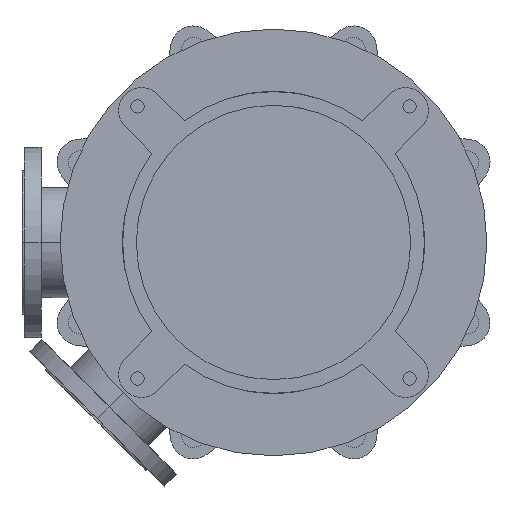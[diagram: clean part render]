
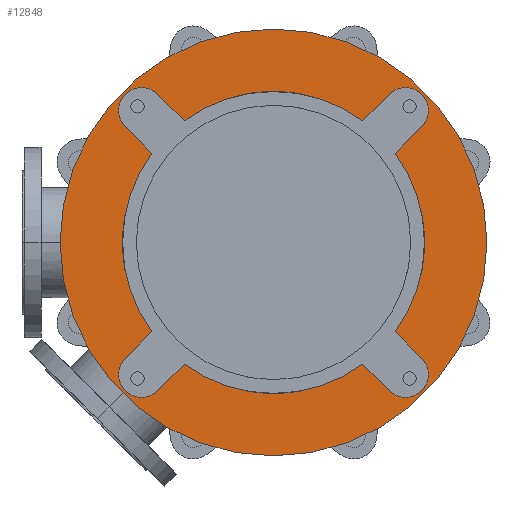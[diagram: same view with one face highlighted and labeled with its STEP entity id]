
A CAD part, front view. The second image highlights one B-rep face of the part: STEP entity #12848.
In plain terms, the highlighted planar face has unit normal (0, -1, 0).
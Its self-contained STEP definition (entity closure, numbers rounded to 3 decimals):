
#2487=CARTESIAN_POINT('',(0.,-25.,0.));
#2488=DIRECTION('',(0.,1.,0.));
#2489=DIRECTION('',(0.592,0.,-0.806));
#2490=AXIS2_PLACEMENT_3D('',#2487,#2488,#2489);
#2505=CARTESIAN_POINT('',(0.,-25.,0.));
#2506=DIRECTION('',(0.,1.,0.));
#2507=DIRECTION('',(0.806,0.,0.592));
#2508=AXIS2_PLACEMENT_3D('',#2505,#2506,#2507);
#2532=CARTESIAN_POINT('',(0.,-25.,0.));
#2533=DIRECTION('',(0.,1.,0.));
#2534=DIRECTION('',(-0.806,0.,-0.592));
#2535=AXIS2_PLACEMENT_3D('',#2532,#2533,#2534);
#2541=CARTESIAN_POINT('',(0.,-25.,0.));
#2542=DIRECTION('',(0.,1.,0.));
#2543=DIRECTION('',(-0.592,0.,0.806));
#2544=AXIS2_PLACEMENT_3D('',#2541,#2542,#2543);
#2719=CARTESIAN_POINT('',(0.,-25.,0.));
#2720=DIRECTION('',(0.,-1.,0.));
#2721=DIRECTION('',(-1.,0.,0.));
#2722=AXIS2_PLACEMENT_3D('',#2719,#2720,#2721);
#2724=CARTESIAN_POINT('',(0.,-25.,0.));
#2725=DIRECTION('',(0.,1.,0.));
#2726=DIRECTION('',(-1.,0.,0.));
#2727=AXIS2_PLACEMENT_3D('',#2724,#2725,#2726);
#2729=CARTESIAN_POINT('',(-173.241,-25.,173.241));
#2730=DIRECTION('',(0.,-1.,0.));
#2731=DIRECTION('',(0.707,0.,0.707));
#2732=AXIS2_PLACEMENT_3D('',#2729,#2730,#2731);
#2734=DIRECTION('',(0.707,0.,-0.707));
#2735=VECTOR('',#2734,49.286);
#2736=CARTESIAN_POINT('',(-194.454,-25.,152.028));
#2737=LINE('',#2736,#2735);
#2738=DIRECTION('',(-0.707,0.,-0.707));
#2739=VECTOR('',#2738,49.286);
#2740=CARTESIAN_POINT('',(-159.604,-25.,-117.178));
#2741=LINE('',#2740,#2739);
#2742=CARTESIAN_POINT('',(-173.241,-25.,-173.241));
#2743=DIRECTION('',(0.,-1.,0.));
#2744=DIRECTION('',(-0.707,0.,0.707));
#2745=AXIS2_PLACEMENT_3D('',#2742,#2743,#2744);
#2747=DIRECTION('',(0.707,0.,0.707));
#2748=VECTOR('',#2747,49.286);
#2749=CARTESIAN_POINT('',(-152.028,-25.,-194.454));
#2750=LINE('',#2749,#2748);
#2751=DIRECTION('',(0.707,0.,-0.707));
#2752=VECTOR('',#2751,49.286);
#2753=CARTESIAN_POINT('',(117.178,-25.,-159.604));
#2754=LINE('',#2753,#2752);
#2755=CARTESIAN_POINT('',(173.241,-25.,-173.241));
#2756=DIRECTION('',(0.,-1.,0.));
#2757=DIRECTION('',(-0.707,0.,-0.707));
#2758=AXIS2_PLACEMENT_3D('',#2755,#2756,#2757);
#2760=DIRECTION('',(-0.707,0.,0.707));
#2761=VECTOR('',#2760,49.286);
#2762=CARTESIAN_POINT('',(194.454,-25.,-152.028));
#2763=LINE('',#2762,#2761);
#2764=DIRECTION('',(0.707,0.,0.707));
#2765=VECTOR('',#2764,49.286);
#2766=CARTESIAN_POINT('',(159.604,-25.,117.178));
#2767=LINE('',#2766,#2765);
#2768=CARTESIAN_POINT('',(173.241,-25.,173.241));
#2769=DIRECTION('',(0.,-1.,0.));
#2770=DIRECTION('',(0.707,0.,-0.707));
#2771=AXIS2_PLACEMENT_3D('',#2768,#2769,#2770);
#2773=DIRECTION('',(-0.707,0.,-0.707));
#2774=VECTOR('',#2773,49.286);
#2775=CARTESIAN_POINT('',(152.028,-25.,194.454));
#2776=LINE('',#2775,#2774);
#2777=DIRECTION('',(-0.707,0.,0.707));
#2778=VECTOR('',#2777,49.286);
#2779=CARTESIAN_POINT('',(-117.178,-25.,159.604));
#2780=LINE('',#2779,#2778);
#8375=CARTESIAN_POINT('',(-280.,-25.,0.));
#8376=CARTESIAN_POINT('',(280.,-25.,0.));
#8377=VERTEX_POINT('',#8375);
#8378=VERTEX_POINT('',#8376);
#8399=CARTESIAN_POINT('',(-194.454,-25.,-152.028));
#8400=CARTESIAN_POINT('',(-152.028,-25.,-194.454));
#8401=VERTEX_POINT('',#8399);
#8402=VERTEX_POINT('',#8400);
#8403=CARTESIAN_POINT('',(-117.178,-25.,-159.604));
#8404=VERTEX_POINT('',#8403);
#8405=CARTESIAN_POINT('',(-159.604,-25.,-117.178));
#8406=VERTEX_POINT('',#8405);
#8415=CARTESIAN_POINT('',(152.028,-25.,-194.454));
#8416=CARTESIAN_POINT('',(194.454,-25.,-152.028));
#8417=VERTEX_POINT('',#8415);
#8418=VERTEX_POINT('',#8416);
#8419=CARTESIAN_POINT('',(159.604,-25.,-117.178));
#8420=VERTEX_POINT('',#8419);
#8421=CARTESIAN_POINT('',(117.178,-25.,-159.604));
#8422=VERTEX_POINT('',#8421);
#8431=CARTESIAN_POINT('',(194.454,-25.,152.028));
#8432=CARTESIAN_POINT('',(152.028,-25.,194.454));
#8433=VERTEX_POINT('',#8431);
#8434=VERTEX_POINT('',#8432);
#8435=CARTESIAN_POINT('',(117.178,-25.,159.604));
#8436=VERTEX_POINT('',#8435);
#8437=CARTESIAN_POINT('',(159.604,-25.,117.178));
#8438=VERTEX_POINT('',#8437);
#8447=CARTESIAN_POINT('',(-152.028,-25.,194.454));
#8448=CARTESIAN_POINT('',(-194.454,-25.,152.028));
#8449=VERTEX_POINT('',#8447);
#8450=VERTEX_POINT('',#8448);
#8451=CARTESIAN_POINT('',(-159.604,-25.,117.178));
#8452=VERTEX_POINT('',#8451);
#8453=CARTESIAN_POINT('',(-117.178,-25.,159.604));
#8454=VERTEX_POINT('',#8453);
#12808=CARTESIAN_POINT('',(0.,-25.,0.));
#12809=DIRECTION('',(0.,-1.,0.));
#12810=DIRECTION('',(-1.,0.,0.));
#12811=AXIS2_PLACEMENT_3D('',#12808,#12809,#12810);
#12812=PLANE('',#12811);
#12814=ORIENTED_EDGE('',*,*,#12813,.F.);
#12816=ORIENTED_EDGE('',*,*,#12815,.T.);
#12817=EDGE_LOOP('',(#12814,#12816));
#12818=FACE_OUTER_BOUND('',#12817,.F.);
#12820=ORIENTED_EDGE('',*,*,#12819,.T.);
#12822=ORIENTED_EDGE('',*,*,#12821,.T.);
#12823=ORIENTED_EDGE('',*,*,#12761,.F.);
#12825=ORIENTED_EDGE('',*,*,#12824,.T.);
#12827=ORIENTED_EDGE('',*,*,#12826,.T.);
#12829=ORIENTED_EDGE('',*,*,#12828,.T.);
#12830=ORIENTED_EDGE('',*,*,#12714,.F.);
#12831=ORIENTED_EDGE('',*,*,#12798,.T.);
#12833=ORIENTED_EDGE('',*,*,#12832,.T.);
#12835=ORIENTED_EDGE('',*,*,#12834,.T.);
#12836=ORIENTED_EDGE('',*,*,#12735,.F.);
#12838=ORIENTED_EDGE('',*,*,#12837,.T.);
#12840=ORIENTED_EDGE('',*,*,#12839,.T.);
#12842=ORIENTED_EDGE('',*,*,#12841,.T.);
#12843=ORIENTED_EDGE('',*,*,#12779,.F.);
#12845=ORIENTED_EDGE('',*,*,#12844,.T.);
#12846=EDGE_LOOP('',(#12820,#12822,#12823,#12825,#12827,#12829,#12830,#12831,
#12833,#12835,#12836,#12838,#12840,#12842,#12843,#12845));
#12847=FACE_BOUND('',#12846,.F.);
#12848=ADVANCED_FACE('',(#12818,#12847),#12812,.T.);
#2491=CIRCLE('',#2490,198.);
#2509=CIRCLE('',#2508,198.);
#2536=CIRCLE('',#2535,198.);
#2545=CIRCLE('',#2544,198.);
#2723=CIRCLE('',#2722,280.);
#2728=CIRCLE('',#2727,280.);
#2733=CIRCLE('',#2732,30.);
#2746=CIRCLE('',#2745,30.);
#2759=CIRCLE('',#2758,30.);
#2772=CIRCLE('',#2771,30.);
#12714=EDGE_CURVE('',#8422,#8404,#2491,.T.);
#12735=EDGE_CURVE('',#8438,#8420,#2509,.T.);
#12761=EDGE_CURVE('',#8406,#8452,#2536,.T.);
#12779=EDGE_CURVE('',#8454,#8436,#2545,.T.);
#12798=EDGE_CURVE('',#8422,#8417,#2754,.T.);
#12813=EDGE_CURVE('',#8377,#8378,#2723,.T.);
#12815=EDGE_CURVE('',#8377,#8378,#2728,.T.);
#12819=EDGE_CURVE('',#8449,#8450,#2733,.T.);
#12821=EDGE_CURVE('',#8450,#8452,#2737,.T.);
#12824=EDGE_CURVE('',#8406,#8401,#2741,.T.);
#12826=EDGE_CURVE('',#8401,#8402,#2746,.T.);
#12828=EDGE_CURVE('',#8402,#8404,#2750,.T.);
#12832=EDGE_CURVE('',#8417,#8418,#2759,.T.);
#12834=EDGE_CURVE('',#8418,#8420,#2763,.T.);
#12837=EDGE_CURVE('',#8438,#8433,#2767,.T.);
#12839=EDGE_CURVE('',#8433,#8434,#2772,.T.);
#12841=EDGE_CURVE('',#8434,#8436,#2776,.T.);
#12844=EDGE_CURVE('',#8454,#8449,#2780,.T.);
